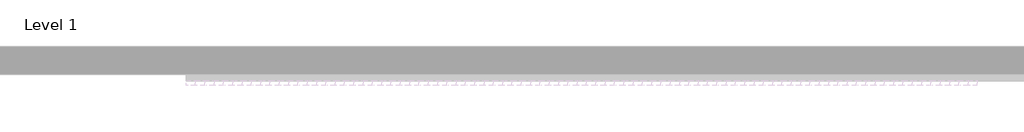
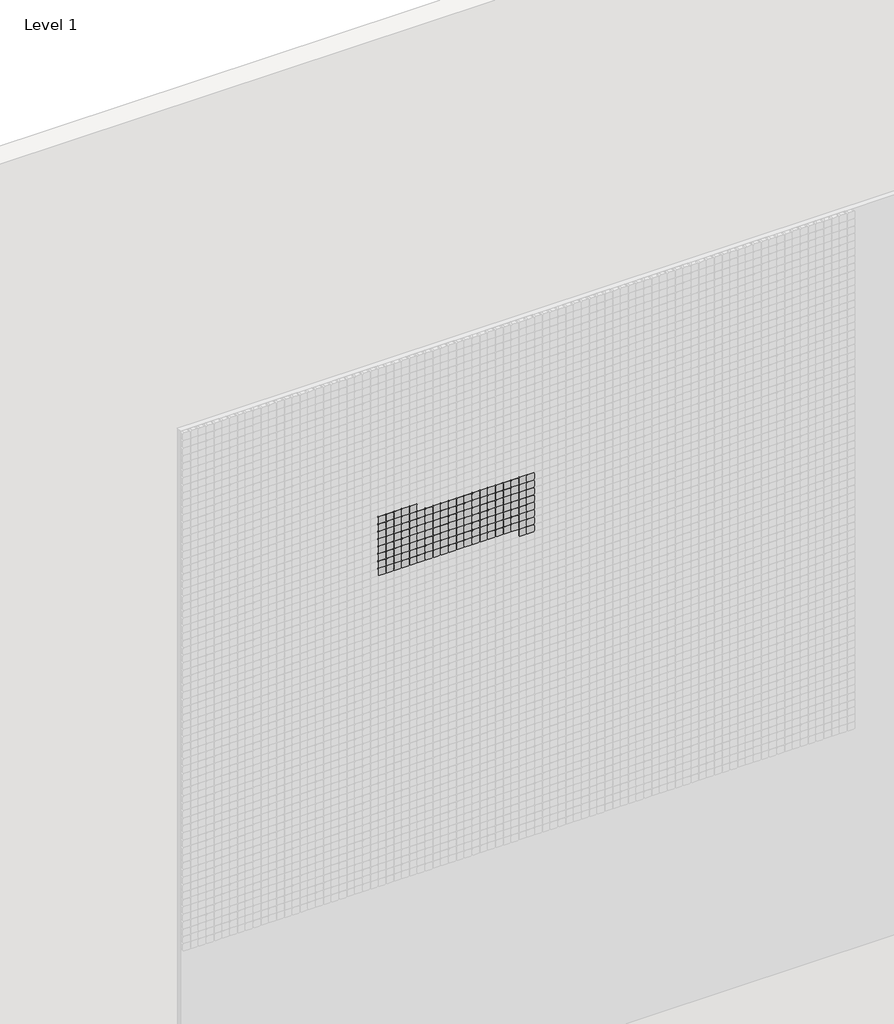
# One storey, part 24 of 71: 147 proxies.
"""IFC4 building model written with IfcOpenShell, lengths in millimetres."""

from ifc_helpers import new_model, si_unit, origin, place, context, project, spatial, transform, mapped, element, save
from components import generic_models_afde289c

model = new_model("IFC4")

# Units and contexts
model_context = context("Model", 3, world=origin())
ifc_project = project(units=[si_unit("LENGTHUNIT", "METRE", prefix="MILLI")], contexts=[model_context])

# Site, building, storey
site = spatial("IfcSite", under=ifc_project)
building = spatial("IfcBuilding", under=site)
storey = spatial("IfcBuildingStorey", under=building, Name="Level 1", Elevation=0.0)

# Proxies
placement = place(None, origin())
generic_models_shape = generic_models_afde289c(model_context)
element("IfcBuildingElementProxy", 1, Name="Pixel_M : Pixel_M", ObjectType="Pixel_M : Pixel_M", at=placement, inside=storey, context=model_context, shape_type="MappedRepresentation", body=[
    mapped(generic_models_shape, transform((6212.4280941, -75.0, 4966.3566215), x_axis=(1.0, 0.0, 0.0), y_axis=(0.0, 0.0, 1.0), z_axis=(0.0, -1.0, 0.0))),
])
element("IfcBuildingElementProxy", 2, Name="Pixel_M : Pixel_M", ObjectType="Pixel_M : Pixel_M", at=placement, inside=storey, context=model_context, shape_type="MappedRepresentation", body=[
    mapped(generic_models_shape, transform((6162.4280941, -75.0, 4966.3566215), x_axis=(1.0, 0.0, 0.0), y_axis=(0.0, 0.0, 1.0), z_axis=(0.0, -1.0, 0.0))),
])
element("IfcBuildingElementProxy", 3, Name="Pixel_M : Pixel_M", ObjectType="Pixel_M : Pixel_M", at=placement, inside=storey, context=model_context, shape_type="MappedRepresentation", body=[
    mapped(generic_models_shape, transform((6112.4280941, -75.0, 4966.3566215), x_axis=(1.0, 0.0, 0.0), y_axis=(0.0, 0.0, 1.0), z_axis=(0.0, -1.0, 0.0))),
])
element("IfcBuildingElementProxy", 4, Name="Pixel_M : Pixel_M", ObjectType="Pixel_M : Pixel_M", at=placement, inside=storey, context=model_context, shape_type="MappedRepresentation", body=[
    mapped(generic_models_shape, transform((6062.4280941, -75.0, 4966.3566215), x_axis=(1.0, 0.0, 0.0), y_axis=(0.0, 0.0, 1.0), z_axis=(0.0, -1.0, 0.0))),
])
element("IfcBuildingElementProxy", 5, Name="Pixel_M : Pixel_M", ObjectType="Pixel_M : Pixel_M", at=placement, inside=storey, context=model_context, shape_type="MappedRepresentation", body=[
    mapped(generic_models_shape, transform((6012.4280941, -75.0, 4966.3566215), x_axis=(1.0, 0.0, 0.0), y_axis=(0.0, 0.0, 1.0), z_axis=(0.0, -1.0, 0.0))),
])
element("IfcBuildingElementProxy", 6, Name="Pixel_M : Pixel_M", ObjectType="Pixel_M : Pixel_M", at=placement, inside=storey, context=model_context, shape_type="MappedRepresentation", body=[
    mapped(generic_models_shape, transform((6962.4280941, -75.0, 4916.3566215), x_axis=(1.0, 0.0, 0.0), y_axis=(0.0, 0.0, 1.0), z_axis=(0.0, -1.0, 0.0))),
])
element("IfcBuildingElementProxy", 7, Name="Pixel_M : Pixel_M", ObjectType="Pixel_M : Pixel_M", at=placement, inside=storey, context=model_context, shape_type="MappedRepresentation", body=[
    mapped(generic_models_shape, transform((6912.4280941, -75.0, 4916.3566215), x_axis=(1.0, 0.0, 0.0), y_axis=(0.0, 0.0, 1.0), z_axis=(0.0, -1.0, 0.0))),
])
element("IfcBuildingElementProxy", 8, Name="Pixel_M : Pixel_M", ObjectType="Pixel_M : Pixel_M", at=placement, inside=storey, context=model_context, shape_type="MappedRepresentation", body=[
    mapped(generic_models_shape, transform((6862.4280941, -75.0, 4916.3566215), x_axis=(1.0, 0.0, 0.0), y_axis=(0.0, 0.0, 1.0), z_axis=(0.0, -1.0, 0.0))),
])
element("IfcBuildingElementProxy", 9, Name="Pixel_M : Pixel_M", ObjectType="Pixel_M : Pixel_M", at=placement, inside=storey, context=model_context, shape_type="MappedRepresentation", body=[
    mapped(generic_models_shape, transform((6812.4280941, -75.0, 4916.3566215), x_axis=(1.0, 0.0, 0.0), y_axis=(0.0, 0.0, 1.0), z_axis=(0.0, -1.0, 0.0))),
])
element("IfcBuildingElementProxy", 10, Name="Pixel_M : Pixel_M", ObjectType="Pixel_M : Pixel_M", at=placement, inside=storey, context=model_context, shape_type="MappedRepresentation", body=[
    mapped(generic_models_shape, transform((6762.4280941, -75.0, 4916.3566215), x_axis=(1.0, 0.0, 0.0), y_axis=(0.0, 0.0, 1.0), z_axis=(0.0, -1.0, 0.0))),
])
element("IfcBuildingElementProxy", 11, Name="Pixel_M : Pixel_M", ObjectType="Pixel_M : Pixel_M", at=placement, inside=storey, context=model_context, shape_type="MappedRepresentation", body=[
    mapped(generic_models_shape, transform((6712.4280941, -75.0, 4916.3566215), x_axis=(1.0, 0.0, 0.0), y_axis=(0.0, 0.0, 1.0), z_axis=(0.0, -1.0, 0.0))),
])
element("IfcBuildingElementProxy", 12, Name="Pixel_M : Pixel_M", ObjectType="Pixel_M : Pixel_M", at=placement, inside=storey, context=model_context, shape_type="MappedRepresentation", body=[
    mapped(generic_models_shape, transform((6662.4280941, -75.0, 4916.3566215), x_axis=(1.0, 0.0, 0.0), y_axis=(0.0, 0.0, 1.0), z_axis=(0.0, -1.0, 0.0))),
])
element("IfcBuildingElementProxy", 13, Name="Pixel_M : Pixel_M", ObjectType="Pixel_M : Pixel_M", at=placement, inside=storey, context=model_context, shape_type="MappedRepresentation", body=[
    mapped(generic_models_shape, transform((6612.4280941, -75.0, 4916.3566215), x_axis=(1.0, 0.0, 0.0), y_axis=(0.0, 0.0, 1.0), z_axis=(0.0, -1.0, 0.0))),
])
element("IfcBuildingElementProxy", 14, Name="Pixel_M : Pixel_M", ObjectType="Pixel_M : Pixel_M", at=placement, inside=storey, context=model_context, shape_type="MappedRepresentation", body=[
    mapped(generic_models_shape, transform((6562.4280941, -75.0, 4916.3566215), x_axis=(1.0, 0.0, 0.0), y_axis=(0.0, 0.0, 1.0), z_axis=(0.0, -1.0, 0.0))),
])
element("IfcBuildingElementProxy", 15, Name="Pixel_M : Pixel_M", ObjectType="Pixel_M : Pixel_M", at=placement, inside=storey, context=model_context, shape_type="MappedRepresentation", body=[
    mapped(generic_models_shape, transform((6512.4280941, -75.0, 4916.3566215), x_axis=(1.0, 0.0, 0.0), y_axis=(0.0, 0.0, 1.0), z_axis=(0.0, -1.0, 0.0))),
])
element("IfcBuildingElementProxy", 16, Name="Pixel_M : Pixel_M", ObjectType="Pixel_M : Pixel_M", at=placement, inside=storey, context=model_context, shape_type="MappedRepresentation", body=[
    mapped(generic_models_shape, transform((6462.4280941, -75.0, 4916.3566215), x_axis=(1.0, 0.0, 0.0), y_axis=(0.0, 0.0, 1.0), z_axis=(0.0, -1.0, 0.0))),
])
element("IfcBuildingElementProxy", 17, Name="Pixel_M : Pixel_M", ObjectType="Pixel_M : Pixel_M", at=placement, inside=storey, context=model_context, shape_type="MappedRepresentation", body=[
    mapped(generic_models_shape, transform((6412.4280941, -75.0, 4916.3566215), x_axis=(1.0, 0.0, 0.0), y_axis=(0.0, 0.0, 1.0), z_axis=(0.0, -1.0, 0.0))),
])
element("IfcBuildingElementProxy", 18, Name="Pixel_M : Pixel_M", ObjectType="Pixel_M : Pixel_M", at=placement, inside=storey, context=model_context, shape_type="MappedRepresentation", body=[
    mapped(generic_models_shape, transform((6362.4280941, -75.0, 4916.3566215), x_axis=(1.0, 0.0, 0.0), y_axis=(0.0, 0.0, 1.0), z_axis=(0.0, -1.0, 0.0))),
])
element("IfcBuildingElementProxy", 19, Name="Pixel_M : Pixel_M", ObjectType="Pixel_M : Pixel_M", at=placement, inside=storey, context=model_context, shape_type="MappedRepresentation", body=[
    mapped(generic_models_shape, transform((6312.4280941, -75.0, 4916.3566215), x_axis=(1.0, 0.0, 0.0), y_axis=(0.0, 0.0, 1.0), z_axis=(0.0, -1.0, 0.0))),
])
element("IfcBuildingElementProxy", 20, Name="Pixel_M : Pixel_M", ObjectType="Pixel_M : Pixel_M", at=placement, inside=storey, context=model_context, shape_type="MappedRepresentation", body=[
    mapped(generic_models_shape, transform((6262.4280941, -75.0, 4916.3566215), x_axis=(1.0, 0.0, 0.0), y_axis=(0.0, 0.0, 1.0), z_axis=(0.0, -1.0, 0.0))),
])
element("IfcBuildingElementProxy", 21, Name="Pixel_M : Pixel_M", ObjectType="Pixel_M : Pixel_M", at=placement, inside=storey, context=model_context, shape_type="MappedRepresentation", body=[
    mapped(generic_models_shape, transform((6212.4280941, -75.0, 4916.3566215), x_axis=(1.0, 0.0, 0.0), y_axis=(0.0, 0.0, 1.0), z_axis=(0.0, -1.0, 0.0))),
])
element("IfcBuildingElementProxy", 22, Name="Pixel_M : Pixel_M", ObjectType="Pixel_M : Pixel_M", at=placement, inside=storey, context=model_context, shape_type="MappedRepresentation", body=[
    mapped(generic_models_shape, transform((6162.4280941, -75.0, 4916.3566215), x_axis=(1.0, 0.0, 0.0), y_axis=(0.0, 0.0, 1.0), z_axis=(0.0, -1.0, 0.0))),
])
element("IfcBuildingElementProxy", 23, Name="Pixel_M : Pixel_M", ObjectType="Pixel_M : Pixel_M", at=placement, inside=storey, context=model_context, shape_type="MappedRepresentation", body=[
    mapped(generic_models_shape, transform((6112.4280941, -75.0, 4916.3566215), x_axis=(1.0, 0.0, 0.0), y_axis=(0.0, 0.0, 1.0), z_axis=(0.0, -1.0, 0.0))),
])
element("IfcBuildingElementProxy", 24, Name="Pixel_M : Pixel_M", ObjectType="Pixel_M : Pixel_M", at=placement, inside=storey, context=model_context, shape_type="MappedRepresentation", body=[
    mapped(generic_models_shape, transform((6062.4280941, -75.0, 4916.3566215), x_axis=(1.0, 0.0, 0.0), y_axis=(0.0, 0.0, 1.0), z_axis=(0.0, -1.0, 0.0))),
])
element("IfcBuildingElementProxy", 25, Name="Pixel_M : Pixel_M", ObjectType="Pixel_M : Pixel_M", at=placement, inside=storey, context=model_context, shape_type="MappedRepresentation", body=[
    mapped(generic_models_shape, transform((6012.4280941, -75.0, 4916.3566215), x_axis=(1.0, 0.0, 0.0), y_axis=(0.0, 0.0, 1.0), z_axis=(0.0, -1.0, 0.0))),
])
element("IfcBuildingElementProxy", 26, Name="Pixel_M : Pixel_M", ObjectType="Pixel_M : Pixel_M", at=placement, inside=storey, context=model_context, shape_type="MappedRepresentation", body=[
    mapped(generic_models_shape, transform((6962.4280941, -75.0, 4866.3566215), x_axis=(1.0, 0.0, 0.0), y_axis=(0.0, 0.0, 1.0), z_axis=(0.0, -1.0, 0.0))),
])
element("IfcBuildingElementProxy", 27, Name="Pixel_M : Pixel_M", ObjectType="Pixel_M : Pixel_M", at=placement, inside=storey, context=model_context, shape_type="MappedRepresentation", body=[
    mapped(generic_models_shape, transform((6912.4280941, -75.0, 4866.3566215), x_axis=(1.0, 0.0, 0.0), y_axis=(0.0, 0.0, 1.0), z_axis=(0.0, -1.0, 0.0))),
])
element("IfcBuildingElementProxy", 28, Name="Pixel_M : Pixel_M", ObjectType="Pixel_M : Pixel_M", at=placement, inside=storey, context=model_context, shape_type="MappedRepresentation", body=[
    mapped(generic_models_shape, transform((6862.4280941, -75.0, 4866.3566215), x_axis=(1.0, 0.0, 0.0), y_axis=(0.0, 0.0, 1.0), z_axis=(0.0, -1.0, 0.0))),
])
element("IfcBuildingElementProxy", 29, Name="Pixel_M : Pixel_M", ObjectType="Pixel_M : Pixel_M", at=placement, inside=storey, context=model_context, shape_type="MappedRepresentation", body=[
    mapped(generic_models_shape, transform((6812.4280941, -75.0, 4866.3566215), x_axis=(1.0, 0.0, 0.0), y_axis=(0.0, 0.0, 1.0), z_axis=(0.0, -1.0, 0.0))),
])
element("IfcBuildingElementProxy", 30, Name="Pixel_M : Pixel_M", ObjectType="Pixel_M : Pixel_M", at=placement, inside=storey, context=model_context, shape_type="MappedRepresentation", body=[
    mapped(generic_models_shape, transform((6762.4280941, -75.0, 4866.3566215), x_axis=(1.0, 0.0, 0.0), y_axis=(0.0, 0.0, 1.0), z_axis=(0.0, -1.0, 0.0))),
])
element("IfcBuildingElementProxy", 31, Name="Pixel_M : Pixel_M", ObjectType="Pixel_M : Pixel_M", at=placement, inside=storey, context=model_context, shape_type="MappedRepresentation", body=[
    mapped(generic_models_shape, transform((6712.4280941, -75.0, 4866.3566215), x_axis=(1.0, 0.0, 0.0), y_axis=(0.0, 0.0, 1.0), z_axis=(0.0, -1.0, 0.0))),
])
element("IfcBuildingElementProxy", 32, Name="Pixel_M : Pixel_M", ObjectType="Pixel_M : Pixel_M", at=placement, inside=storey, context=model_context, shape_type="MappedRepresentation", body=[
    mapped(generic_models_shape, transform((6662.4280941, -75.0, 4866.3566215), x_axis=(1.0, 0.0, 0.0), y_axis=(0.0, 0.0, 1.0), z_axis=(0.0, -1.0, 0.0))),
])
element("IfcBuildingElementProxy", 33, Name="Pixel_M : Pixel_M", ObjectType="Pixel_M : Pixel_M", at=placement, inside=storey, context=model_context, shape_type="MappedRepresentation", body=[
    mapped(generic_models_shape, transform((6612.4280941, -75.0, 4866.3566215), x_axis=(1.0, 0.0, 0.0), y_axis=(0.0, 0.0, 1.0), z_axis=(0.0, -1.0, 0.0))),
])
element("IfcBuildingElementProxy", 34, Name="Pixel_M : Pixel_M", ObjectType="Pixel_M : Pixel_M", at=placement, inside=storey, context=model_context, shape_type="MappedRepresentation", body=[
    mapped(generic_models_shape, transform((6562.4280941, -75.0, 4866.3566215), x_axis=(1.0, 0.0, 0.0), y_axis=(0.0, 0.0, 1.0), z_axis=(0.0, -1.0, 0.0))),
])
element("IfcBuildingElementProxy", 35, Name="Pixel_M : Pixel_M", ObjectType="Pixel_M : Pixel_M", at=placement, inside=storey, context=model_context, shape_type="MappedRepresentation", body=[
    mapped(generic_models_shape, transform((6512.4280941, -75.0, 4866.3566215), x_axis=(1.0, 0.0, 0.0), y_axis=(0.0, 0.0, 1.0), z_axis=(0.0, -1.0, 0.0))),
])
element("IfcBuildingElementProxy", 36, Name="Pixel_M : Pixel_M", ObjectType="Pixel_M : Pixel_M", at=placement, inside=storey, context=model_context, shape_type="MappedRepresentation", body=[
    mapped(generic_models_shape, transform((6462.4280941, -75.0, 4866.3566215), x_axis=(1.0, 0.0, 0.0), y_axis=(0.0, 0.0, 1.0), z_axis=(0.0, -1.0, 0.0))),
])
element("IfcBuildingElementProxy", 37, Name="Pixel_M : Pixel_M", ObjectType="Pixel_M : Pixel_M", at=placement, inside=storey, context=model_context, shape_type="MappedRepresentation", body=[
    mapped(generic_models_shape, transform((6412.4280941, -75.0, 4866.3566215), x_axis=(1.0, 0.0, 0.0), y_axis=(0.0, 0.0, 1.0), z_axis=(0.0, -1.0, 0.0))),
])
element("IfcBuildingElementProxy", 38, Name="Pixel_M : Pixel_M", ObjectType="Pixel_M : Pixel_M", at=placement, inside=storey, context=model_context, shape_type="MappedRepresentation", body=[
    mapped(generic_models_shape, transform((6362.4280941, -75.0, 4866.3566215), x_axis=(1.0, 0.0, 0.0), y_axis=(0.0, 0.0, 1.0), z_axis=(0.0, -1.0, 0.0))),
])
element("IfcBuildingElementProxy", 39, Name="Pixel_M : Pixel_M", ObjectType="Pixel_M : Pixel_M", at=placement, inside=storey, context=model_context, shape_type="MappedRepresentation", body=[
    mapped(generic_models_shape, transform((6312.4280941, -75.0, 4866.3566215), x_axis=(1.0, 0.0, 0.0), y_axis=(0.0, 0.0, 1.0), z_axis=(0.0, -1.0, 0.0))),
])
element("IfcBuildingElementProxy", 40, Name="Pixel_M : Pixel_M", ObjectType="Pixel_M : Pixel_M", at=placement, inside=storey, context=model_context, shape_type="MappedRepresentation", body=[
    mapped(generic_models_shape, transform((6262.4280941, -75.0, 4866.3566215), x_axis=(1.0, 0.0, 0.0), y_axis=(0.0, 0.0, 1.0), z_axis=(0.0, -1.0, 0.0))),
])
element("IfcBuildingElementProxy", 41, Name="Pixel_M : Pixel_M", ObjectType="Pixel_M : Pixel_M", at=placement, inside=storey, context=model_context, shape_type="MappedRepresentation", body=[
    mapped(generic_models_shape, transform((6212.4280941, -75.0, 4866.3566215), x_axis=(1.0, 0.0, 0.0), y_axis=(0.0, 0.0, 1.0), z_axis=(0.0, -1.0, 0.0))),
])
element("IfcBuildingElementProxy", 42, Name="Pixel_M : Pixel_M", ObjectType="Pixel_M : Pixel_M", at=placement, inside=storey, context=model_context, shape_type="MappedRepresentation", body=[
    mapped(generic_models_shape, transform((6162.4280941, -75.0, 4866.3566215), x_axis=(1.0, 0.0, 0.0), y_axis=(0.0, 0.0, 1.0), z_axis=(0.0, -1.0, 0.0))),
])
element("IfcBuildingElementProxy", 43, Name="Pixel_M : Pixel_M", ObjectType="Pixel_M : Pixel_M", at=placement, inside=storey, context=model_context, shape_type="MappedRepresentation", body=[
    mapped(generic_models_shape, transform((6112.4280941, -75.0, 4866.3566215), x_axis=(1.0, 0.0, 0.0), y_axis=(0.0, 0.0, 1.0), z_axis=(0.0, -1.0, 0.0))),
])
element("IfcBuildingElementProxy", 44, Name="Pixel_M : Pixel_M", ObjectType="Pixel_M : Pixel_M", at=placement, inside=storey, context=model_context, shape_type="MappedRepresentation", body=[
    mapped(generic_models_shape, transform((6062.4280941, -75.0, 4866.3566215), x_axis=(1.0, 0.0, 0.0), y_axis=(0.0, 0.0, 1.0), z_axis=(0.0, -1.0, 0.0))),
])
element("IfcBuildingElementProxy", 45, Name="Pixel_M : Pixel_M", ObjectType="Pixel_M : Pixel_M", at=placement, inside=storey, context=model_context, shape_type="MappedRepresentation", body=[
    mapped(generic_models_shape, transform((6012.4280941, -75.0, 4866.3566215), x_axis=(1.0, 0.0, 0.0), y_axis=(0.0, 0.0, 1.0), z_axis=(0.0, -1.0, 0.0))),
])
element("IfcBuildingElementProxy", 46, Name="Pixel_M : Pixel_M", ObjectType="Pixel_M : Pixel_M", at=placement, inside=storey, context=model_context, shape_type="MappedRepresentation", body=[
    mapped(generic_models_shape, transform((6962.4280941, -75.0, 4816.3566215), x_axis=(1.0, 0.0, 0.0), y_axis=(0.0, 0.0, 1.0), z_axis=(0.0, -1.0, 0.0))),
])
element("IfcBuildingElementProxy", 47, Name="Pixel_M : Pixel_M", ObjectType="Pixel_M : Pixel_M", at=placement, inside=storey, context=model_context, shape_type="MappedRepresentation", body=[
    mapped(generic_models_shape, transform((6912.4280941, -75.0, 4816.3566215), x_axis=(1.0, 0.0, 0.0), y_axis=(0.0, 0.0, 1.0), z_axis=(0.0, -1.0, 0.0))),
])
element("IfcBuildingElementProxy", 48, Name="Pixel_M : Pixel_M", ObjectType="Pixel_M : Pixel_M", at=placement, inside=storey, context=model_context, shape_type="MappedRepresentation", body=[
    mapped(generic_models_shape, transform((6862.4280941, -75.0, 4816.3566215), x_axis=(1.0, 0.0, 0.0), y_axis=(0.0, 0.0, 1.0), z_axis=(0.0, -1.0, 0.0))),
])
element("IfcBuildingElementProxy", 49, Name="Pixel_M : Pixel_M", ObjectType="Pixel_M : Pixel_M", at=placement, inside=storey, context=model_context, shape_type="MappedRepresentation", body=[
    mapped(generic_models_shape, transform((6812.4280941, -75.0, 4816.3566215), x_axis=(1.0, 0.0, 0.0), y_axis=(0.0, 0.0, 1.0), z_axis=(0.0, -1.0, 0.0))),
])
element("IfcBuildingElementProxy", 50, Name="Pixel_M : Pixel_M", ObjectType="Pixel_M : Pixel_M", at=placement, inside=storey, context=model_context, shape_type="MappedRepresentation", body=[
    mapped(generic_models_shape, transform((6762.4280941, -75.0, 4816.3566215), x_axis=(1.0, 0.0, 0.0), y_axis=(0.0, 0.0, 1.0), z_axis=(0.0, -1.0, 0.0))),
])
element("IfcBuildingElementProxy", 51, Name="Pixel_M : Pixel_M", ObjectType="Pixel_M : Pixel_M", at=placement, inside=storey, context=model_context, shape_type="MappedRepresentation", body=[
    mapped(generic_models_shape, transform((6712.4280941, -75.0, 4816.3566215), x_axis=(1.0, 0.0, 0.0), y_axis=(0.0, 0.0, 1.0), z_axis=(0.0, -1.0, 0.0))),
])
element("IfcBuildingElementProxy", 52, Name="Pixel_M : Pixel_M", ObjectType="Pixel_M : Pixel_M", at=placement, inside=storey, context=model_context, shape_type="MappedRepresentation", body=[
    mapped(generic_models_shape, transform((6662.4280941, -75.0, 4816.3566215), x_axis=(1.0, 0.0, 0.0), y_axis=(0.0, 0.0, 1.0), z_axis=(0.0, -1.0, 0.0))),
])
element("IfcBuildingElementProxy", 53, Name="Pixel_M : Pixel_M", ObjectType="Pixel_M : Pixel_M", at=placement, inside=storey, context=model_context, shape_type="MappedRepresentation", body=[
    mapped(generic_models_shape, transform((6612.4280941, -75.0, 4816.3566215), x_axis=(1.0, 0.0, 0.0), y_axis=(0.0, 0.0, 1.0), z_axis=(0.0, -1.0, 0.0))),
])
element("IfcBuildingElementProxy", 54, Name="Pixel_M : Pixel_M", ObjectType="Pixel_M : Pixel_M", at=placement, inside=storey, context=model_context, shape_type="MappedRepresentation", body=[
    mapped(generic_models_shape, transform((6562.4280941, -75.0, 4816.3566215), x_axis=(1.0, 0.0, 0.0), y_axis=(0.0, 0.0, 1.0), z_axis=(0.0, -1.0, 0.0))),
])
element("IfcBuildingElementProxy", 55, Name="Pixel_M : Pixel_M", ObjectType="Pixel_M : Pixel_M", at=placement, inside=storey, context=model_context, shape_type="MappedRepresentation", body=[
    mapped(generic_models_shape, transform((6512.4280941, -75.0, 4816.3566215), x_axis=(1.0, 0.0, 0.0), y_axis=(0.0, 0.0, 1.0), z_axis=(0.0, -1.0, 0.0))),
])
element("IfcBuildingElementProxy", 56, Name="Pixel_M : Pixel_M", ObjectType="Pixel_M : Pixel_M", at=placement, inside=storey, context=model_context, shape_type="MappedRepresentation", body=[
    mapped(generic_models_shape, transform((6462.4280941, -75.0, 4816.3566215), x_axis=(1.0, 0.0, 0.0), y_axis=(0.0, 0.0, 1.0), z_axis=(0.0, -1.0, 0.0))),
])
element("IfcBuildingElementProxy", 57, Name="Pixel_M : Pixel_M", ObjectType="Pixel_M : Pixel_M", at=placement, inside=storey, context=model_context, shape_type="MappedRepresentation", body=[
    mapped(generic_models_shape, transform((6412.4280941, -75.0, 4816.3566215), x_axis=(1.0, 0.0, 0.0), y_axis=(0.0, 0.0, 1.0), z_axis=(0.0, -1.0, 0.0))),
])
element("IfcBuildingElementProxy", 58, Name="Pixel_M : Pixel_M", ObjectType="Pixel_M : Pixel_M", at=placement, inside=storey, context=model_context, shape_type="MappedRepresentation", body=[
    mapped(generic_models_shape, transform((6362.4280941, -75.0, 4816.3566215), x_axis=(1.0, 0.0, 0.0), y_axis=(0.0, 0.0, 1.0), z_axis=(0.0, -1.0, 0.0))),
])
element("IfcBuildingElementProxy", 59, Name="Pixel_M : Pixel_M", ObjectType="Pixel_M : Pixel_M", at=placement, inside=storey, context=model_context, shape_type="MappedRepresentation", body=[
    mapped(generic_models_shape, transform((6312.4280941, -75.0, 4816.3566215), x_axis=(1.0, 0.0, 0.0), y_axis=(0.0, 0.0, 1.0), z_axis=(0.0, -1.0, 0.0))),
])
element("IfcBuildingElementProxy", 60, Name="Pixel_M : Pixel_M", ObjectType="Pixel_M : Pixel_M", at=placement, inside=storey, context=model_context, shape_type="MappedRepresentation", body=[
    mapped(generic_models_shape, transform((6262.4280941, -75.0, 4816.3566215), x_axis=(1.0, 0.0, 0.0), y_axis=(0.0, 0.0, 1.0), z_axis=(0.0, -1.0, 0.0))),
])
element("IfcBuildingElementProxy", 61, Name="Pixel_M : Pixel_M", ObjectType="Pixel_M : Pixel_M", at=placement, inside=storey, context=model_context, shape_type="MappedRepresentation", body=[
    mapped(generic_models_shape, transform((6212.4280941, -75.0, 4816.3566215), x_axis=(1.0, 0.0, 0.0), y_axis=(0.0, 0.0, 1.0), z_axis=(0.0, -1.0, 0.0))),
])
element("IfcBuildingElementProxy", 62, Name="Pixel_M : Pixel_M", ObjectType="Pixel_M : Pixel_M", at=placement, inside=storey, context=model_context, shape_type="MappedRepresentation", body=[
    mapped(generic_models_shape, transform((6162.4280941, -75.0, 4816.3566215), x_axis=(1.0, 0.0, 0.0), y_axis=(0.0, 0.0, 1.0), z_axis=(0.0, -1.0, 0.0))),
])
element("IfcBuildingElementProxy", 63, Name="Pixel_M : Pixel_M", ObjectType="Pixel_M : Pixel_M", at=placement, inside=storey, context=model_context, shape_type="MappedRepresentation", body=[
    mapped(generic_models_shape, transform((6112.4280941, -75.0, 4816.3566215), x_axis=(1.0, 0.0, 0.0), y_axis=(0.0, 0.0, 1.0), z_axis=(0.0, -1.0, 0.0))),
])
element("IfcBuildingElementProxy", 64, Name="Pixel_M : Pixel_M", ObjectType="Pixel_M : Pixel_M", at=placement, inside=storey, context=model_context, shape_type="MappedRepresentation", body=[
    mapped(generic_models_shape, transform((6062.4280941, -75.0, 4816.3566215), x_axis=(1.0, 0.0, 0.0), y_axis=(0.0, 0.0, 1.0), z_axis=(0.0, -1.0, 0.0))),
])
element("IfcBuildingElementProxy", 65, Name="Pixel_M : Pixel_M", ObjectType="Pixel_M : Pixel_M", at=placement, inside=storey, context=model_context, shape_type="MappedRepresentation", body=[
    mapped(generic_models_shape, transform((6012.4280941, -75.0, 4816.3566215), x_axis=(1.0, 0.0, 0.0), y_axis=(0.0, 0.0, 1.0), z_axis=(0.0, -1.0, 0.0))),
])
element("IfcBuildingElementProxy", 66, Name="Pixel_M : Pixel_M", ObjectType="Pixel_M : Pixel_M", at=placement, inside=storey, context=model_context, shape_type="MappedRepresentation", body=[
    mapped(generic_models_shape, transform((6962.4280941, -75.0, 4766.3566215), x_axis=(1.0, 0.0, 0.0), y_axis=(0.0, 0.0, 1.0), z_axis=(0.0, -1.0, 0.0))),
])
element("IfcBuildingElementProxy", 67, Name="Pixel_M : Pixel_M", ObjectType="Pixel_M : Pixel_M", at=placement, inside=storey, context=model_context, shape_type="MappedRepresentation", body=[
    mapped(generic_models_shape, transform((6912.4280941, -75.0, 4766.3566215), x_axis=(1.0, 0.0, 0.0), y_axis=(0.0, 0.0, 1.0), z_axis=(0.0, -1.0, 0.0))),
])
element("IfcBuildingElementProxy", 68, Name="Pixel_M : Pixel_M", ObjectType="Pixel_M : Pixel_M", at=placement, inside=storey, context=model_context, shape_type="MappedRepresentation", body=[
    mapped(generic_models_shape, transform((6862.4280941, -75.0, 4766.3566215), x_axis=(1.0, 0.0, 0.0), y_axis=(0.0, 0.0, 1.0), z_axis=(0.0, -1.0, 0.0))),
])
element("IfcBuildingElementProxy", 69, Name="Pixel_M : Pixel_M", ObjectType="Pixel_M : Pixel_M", at=placement, inside=storey, context=model_context, shape_type="MappedRepresentation", body=[
    mapped(generic_models_shape, transform((6812.4280941, -75.0, 4766.3566215), x_axis=(1.0, 0.0, 0.0), y_axis=(0.0, 0.0, 1.0), z_axis=(0.0, -1.0, 0.0))),
])
element("IfcBuildingElementProxy", 70, Name="Pixel_M : Pixel_M", ObjectType="Pixel_M : Pixel_M", at=placement, inside=storey, context=model_context, shape_type="MappedRepresentation", body=[
    mapped(generic_models_shape, transform((6762.4280941, -75.0, 4766.3566215), x_axis=(1.0, 0.0, 0.0), y_axis=(0.0, 0.0, 1.0), z_axis=(0.0, -1.0, 0.0))),
])
element("IfcBuildingElementProxy", 71, Name="Pixel_M : Pixel_M", ObjectType="Pixel_M : Pixel_M", at=placement, inside=storey, context=model_context, shape_type="MappedRepresentation", body=[
    mapped(generic_models_shape, transform((6712.4280941, -75.0, 4766.3566215), x_axis=(1.0, 0.0, 0.0), y_axis=(0.0, 0.0, 1.0), z_axis=(0.0, -1.0, 0.0))),
])
element("IfcBuildingElementProxy", 72, Name="Pixel_M : Pixel_M", ObjectType="Pixel_M : Pixel_M", at=placement, inside=storey, context=model_context, shape_type="MappedRepresentation", body=[
    mapped(generic_models_shape, transform((6662.4280941, -75.0, 4766.3566215), x_axis=(1.0, 0.0, 0.0), y_axis=(0.0, 0.0, 1.0), z_axis=(0.0, -1.0, 0.0))),
])
element("IfcBuildingElementProxy", 73, Name="Pixel_M : Pixel_M", ObjectType="Pixel_M : Pixel_M", at=placement, inside=storey, context=model_context, shape_type="MappedRepresentation", body=[
    mapped(generic_models_shape, transform((6612.4280941, -75.0, 4766.3566215), x_axis=(1.0, 0.0, 0.0), y_axis=(0.0, 0.0, 1.0), z_axis=(0.0, -1.0, 0.0))),
])
element("IfcBuildingElementProxy", 74, Name="Pixel_M : Pixel_M", ObjectType="Pixel_M : Pixel_M", at=placement, inside=storey, context=model_context, shape_type="MappedRepresentation", body=[
    mapped(generic_models_shape, transform((6562.4280941, -75.0, 4766.3566215), x_axis=(1.0, 0.0, 0.0), y_axis=(0.0, 0.0, 1.0), z_axis=(0.0, -1.0, 0.0))),
])
element("IfcBuildingElementProxy", 75, Name="Pixel_M : Pixel_M", ObjectType="Pixel_M : Pixel_M", at=placement, inside=storey, context=model_context, shape_type="MappedRepresentation", body=[
    mapped(generic_models_shape, transform((6512.4280941, -75.0, 4766.3566215), x_axis=(1.0, 0.0, 0.0), y_axis=(0.0, 0.0, 1.0), z_axis=(0.0, -1.0, 0.0))),
])
element("IfcBuildingElementProxy", 76, Name="Pixel_M : Pixel_M", ObjectType="Pixel_M : Pixel_M", at=placement, inside=storey, context=model_context, shape_type="MappedRepresentation", body=[
    mapped(generic_models_shape, transform((6462.4280941, -75.0, 4766.3566215), x_axis=(1.0, 0.0, 0.0), y_axis=(0.0, 0.0, 1.0), z_axis=(0.0, -1.0, 0.0))),
])
element("IfcBuildingElementProxy", 77, Name="Pixel_M : Pixel_M", ObjectType="Pixel_M : Pixel_M", at=placement, inside=storey, context=model_context, shape_type="MappedRepresentation", body=[
    mapped(generic_models_shape, transform((6412.4280941, -75.0, 4766.3566215), x_axis=(1.0, 0.0, 0.0), y_axis=(0.0, 0.0, 1.0), z_axis=(0.0, -1.0, 0.0))),
])
element("IfcBuildingElementProxy", 78, Name="Pixel_M : Pixel_M", ObjectType="Pixel_M : Pixel_M", at=placement, inside=storey, context=model_context, shape_type="MappedRepresentation", body=[
    mapped(generic_models_shape, transform((6362.4280941, -75.0, 4766.3566215), x_axis=(1.0, 0.0, 0.0), y_axis=(0.0, 0.0, 1.0), z_axis=(0.0, -1.0, 0.0))),
])
element("IfcBuildingElementProxy", 79, Name="Pixel_M : Pixel_M", ObjectType="Pixel_M : Pixel_M", at=placement, inside=storey, context=model_context, shape_type="MappedRepresentation", body=[
    mapped(generic_models_shape, transform((6312.4280941, -75.0, 4766.3566215), x_axis=(1.0, 0.0, 0.0), y_axis=(0.0, 0.0, 1.0), z_axis=(0.0, -1.0, 0.0))),
])
element("IfcBuildingElementProxy", 80, Name="Pixel_M : Pixel_M", ObjectType="Pixel_M : Pixel_M", at=placement, inside=storey, context=model_context, shape_type="MappedRepresentation", body=[
    mapped(generic_models_shape, transform((6262.4280941, -75.0, 4766.3566215), x_axis=(1.0, 0.0, 0.0), y_axis=(0.0, 0.0, 1.0), z_axis=(0.0, -1.0, 0.0))),
])
element("IfcBuildingElementProxy", 81, Name="Pixel_M : Pixel_M", ObjectType="Pixel_M : Pixel_M", at=placement, inside=storey, context=model_context, shape_type="MappedRepresentation", body=[
    mapped(generic_models_shape, transform((6212.4280941, -75.0, 4766.3566215), x_axis=(1.0, 0.0, 0.0), y_axis=(0.0, 0.0, 1.0), z_axis=(0.0, -1.0, 0.0))),
])
element("IfcBuildingElementProxy", 82, Name="Pixel_M : Pixel_M", ObjectType="Pixel_M : Pixel_M", at=placement, inside=storey, context=model_context, shape_type="MappedRepresentation", body=[
    mapped(generic_models_shape, transform((6162.4280941, -75.0, 4766.3566215), x_axis=(1.0, 0.0, 0.0), y_axis=(0.0, 0.0, 1.0), z_axis=(0.0, -1.0, 0.0))),
])
element("IfcBuildingElementProxy", 83, Name="Pixel_M : Pixel_M", ObjectType="Pixel_M : Pixel_M", at=placement, inside=storey, context=model_context, shape_type="MappedRepresentation", body=[
    mapped(generic_models_shape, transform((6112.4280941, -75.0, 4766.3566215), x_axis=(1.0, 0.0, 0.0), y_axis=(0.0, 0.0, 1.0), z_axis=(0.0, -1.0, 0.0))),
])
element("IfcBuildingElementProxy", 84, Name="Pixel_M : Pixel_M", ObjectType="Pixel_M : Pixel_M", at=placement, inside=storey, context=model_context, shape_type="MappedRepresentation", body=[
    mapped(generic_models_shape, transform((6062.4280941, -75.0, 4766.3566215), x_axis=(1.0, 0.0, 0.0), y_axis=(0.0, 0.0, 1.0), z_axis=(0.0, -1.0, 0.0))),
])
element("IfcBuildingElementProxy", 85, Name="Pixel_M : Pixel_M", ObjectType="Pixel_M : Pixel_M", at=placement, inside=storey, context=model_context, shape_type="MappedRepresentation", body=[
    mapped(generic_models_shape, transform((6012.4280941, -75.0, 4766.3566215), x_axis=(1.0, 0.0, 0.0), y_axis=(0.0, 0.0, 1.0), z_axis=(0.0, -1.0, 0.0))),
])
element("IfcBuildingElementProxy", 86, Name="Pixel_M : Pixel_M", ObjectType="Pixel_M : Pixel_M", at=placement, inside=storey, context=model_context, shape_type="MappedRepresentation", body=[
    mapped(generic_models_shape, transform((6962.4280941, -75.0, 4716.3566215), x_axis=(1.0, 0.0, 0.0), y_axis=(0.0, 0.0, 1.0), z_axis=(0.0, -1.0, 0.0))),
])
element("IfcBuildingElementProxy", 87, Name="Pixel_M : Pixel_M", ObjectType="Pixel_M : Pixel_M", at=placement, inside=storey, context=model_context, shape_type="MappedRepresentation", body=[
    mapped(generic_models_shape, transform((6912.4280941, -75.0, 4716.3566215), x_axis=(1.0, 0.0, 0.0), y_axis=(0.0, 0.0, 1.0), z_axis=(0.0, -1.0, 0.0))),
])
element("IfcBuildingElementProxy", 88, Name="Pixel_M : Pixel_M", ObjectType="Pixel_M : Pixel_M", at=placement, inside=storey, context=model_context, shape_type="MappedRepresentation", body=[
    mapped(generic_models_shape, transform((6862.4280941, -75.0, 4716.3566215), x_axis=(1.0, 0.0, 0.0), y_axis=(0.0, 0.0, 1.0), z_axis=(0.0, -1.0, 0.0))),
])
element("IfcBuildingElementProxy", 89, Name="Pixel_M : Pixel_M", ObjectType="Pixel_M : Pixel_M", at=placement, inside=storey, context=model_context, shape_type="MappedRepresentation", body=[
    mapped(generic_models_shape, transform((6812.4280941, -75.0, 4716.3566215), x_axis=(1.0, 0.0, 0.0), y_axis=(0.0, 0.0, 1.0), z_axis=(0.0, -1.0, 0.0))),
])
element("IfcBuildingElementProxy", 90, Name="Pixel_M : Pixel_M", ObjectType="Pixel_M : Pixel_M", at=placement, inside=storey, context=model_context, shape_type="MappedRepresentation", body=[
    mapped(generic_models_shape, transform((6762.4280941, -75.0, 4716.3566215), x_axis=(1.0, 0.0, 0.0), y_axis=(0.0, 0.0, 1.0), z_axis=(0.0, -1.0, 0.0))),
])
element("IfcBuildingElementProxy", 91, Name="Pixel_M : Pixel_M", ObjectType="Pixel_M : Pixel_M", at=placement, inside=storey, context=model_context, shape_type="MappedRepresentation", body=[
    mapped(generic_models_shape, transform((6712.4280941, -75.0, 4716.3566215), x_axis=(1.0, 0.0, 0.0), y_axis=(0.0, 0.0, 1.0), z_axis=(0.0, -1.0, 0.0))),
])
element("IfcBuildingElementProxy", 92, Name="Pixel_M : Pixel_M", ObjectType="Pixel_M : Pixel_M", at=placement, inside=storey, context=model_context, shape_type="MappedRepresentation", body=[
    mapped(generic_models_shape, transform((6662.4280941, -75.0, 4716.3566215), x_axis=(1.0, 0.0, 0.0), y_axis=(0.0, 0.0, 1.0), z_axis=(0.0, -1.0, 0.0))),
])
element("IfcBuildingElementProxy", 93, Name="Pixel_M : Pixel_M", ObjectType="Pixel_M : Pixel_M", at=placement, inside=storey, context=model_context, shape_type="MappedRepresentation", body=[
    mapped(generic_models_shape, transform((6612.4280941, -75.0, 4716.3566215), x_axis=(1.0, 0.0, 0.0), y_axis=(0.0, 0.0, 1.0), z_axis=(0.0, -1.0, 0.0))),
])
element("IfcBuildingElementProxy", 94, Name="Pixel_M : Pixel_M", ObjectType="Pixel_M : Pixel_M", at=placement, inside=storey, context=model_context, shape_type="MappedRepresentation", body=[
    mapped(generic_models_shape, transform((6562.4280941, -75.0, 4716.3566215), x_axis=(1.0, 0.0, 0.0), y_axis=(0.0, 0.0, 1.0), z_axis=(0.0, -1.0, 0.0))),
])
element("IfcBuildingElementProxy", 95, Name="Pixel_M : Pixel_M", ObjectType="Pixel_M : Pixel_M", at=placement, inside=storey, context=model_context, shape_type="MappedRepresentation", body=[
    mapped(generic_models_shape, transform((6512.4280941, -75.0, 4716.3566215), x_axis=(1.0, 0.0, 0.0), y_axis=(0.0, 0.0, 1.0), z_axis=(0.0, -1.0, 0.0))),
])
element("IfcBuildingElementProxy", 96, Name="Pixel_M : Pixel_M", ObjectType="Pixel_M : Pixel_M", at=placement, inside=storey, context=model_context, shape_type="MappedRepresentation", body=[
    mapped(generic_models_shape, transform((6462.4280941, -75.0, 4716.3566215), x_axis=(1.0, 0.0, 0.0), y_axis=(0.0, 0.0, 1.0), z_axis=(0.0, -1.0, 0.0))),
])
element("IfcBuildingElementProxy", 97, Name="Pixel_M : Pixel_M", ObjectType="Pixel_M : Pixel_M", at=placement, inside=storey, context=model_context, shape_type="MappedRepresentation", body=[
    mapped(generic_models_shape, transform((6412.4280941, -75.0, 4716.3566215), x_axis=(1.0, 0.0, 0.0), y_axis=(0.0, 0.0, 1.0), z_axis=(0.0, -1.0, 0.0))),
])
element("IfcBuildingElementProxy", 98, Name="Pixel_M : Pixel_M", ObjectType="Pixel_M : Pixel_M", at=placement, inside=storey, context=model_context, shape_type="MappedRepresentation", body=[
    mapped(generic_models_shape, transform((6362.4280941, -75.0, 4716.3566215), x_axis=(1.0, 0.0, 0.0), y_axis=(0.0, 0.0, 1.0), z_axis=(0.0, -1.0, 0.0))),
])
element("IfcBuildingElementProxy", 99, Name="Pixel_M : Pixel_M", ObjectType="Pixel_M : Pixel_M", at=placement, inside=storey, context=model_context, shape_type="MappedRepresentation", body=[
    mapped(generic_models_shape, transform((6312.4280941, -75.0, 4716.3566215), x_axis=(1.0, 0.0, 0.0), y_axis=(0.0, 0.0, 1.0), z_axis=(0.0, -1.0, 0.0))),
])
element("IfcBuildingElementProxy", 100, Name="Pixel_M : Pixel_M", ObjectType="Pixel_M : Pixel_M", at=placement, inside=storey, context=model_context, shape_type="MappedRepresentation", body=[
    mapped(generic_models_shape, transform((6262.4280941, -75.0, 4716.3566215), x_axis=(1.0, 0.0, 0.0), y_axis=(0.0, 0.0, 1.0), z_axis=(0.0, -1.0, 0.0))),
])
element("IfcBuildingElementProxy", 101, Name="Pixel_M : Pixel_M", ObjectType="Pixel_M : Pixel_M", at=placement, inside=storey, context=model_context, shape_type="MappedRepresentation", body=[
    mapped(generic_models_shape, transform((6212.4280941, -75.0, 4716.3566215), x_axis=(1.0, 0.0, 0.0), y_axis=(0.0, 0.0, 1.0), z_axis=(0.0, -1.0, 0.0))),
])
element("IfcBuildingElementProxy", 102, Name="Pixel_M : Pixel_M", ObjectType="Pixel_M : Pixel_M", at=placement, inside=storey, context=model_context, shape_type="MappedRepresentation", body=[
    mapped(generic_models_shape, transform((6162.4280941, -75.0, 4716.3566215), x_axis=(1.0, 0.0, 0.0), y_axis=(0.0, 0.0, 1.0), z_axis=(0.0, -1.0, 0.0))),
])
element("IfcBuildingElementProxy", 103, Name="Pixel_M : Pixel_M", ObjectType="Pixel_M : Pixel_M", at=placement, inside=storey, context=model_context, shape_type="MappedRepresentation", body=[
    mapped(generic_models_shape, transform((6112.4280941, -75.0, 4716.3566215), x_axis=(1.0, 0.0, 0.0), y_axis=(0.0, 0.0, 1.0), z_axis=(0.0, -1.0, 0.0))),
])
element("IfcBuildingElementProxy", 104, Name="Pixel_M : Pixel_M", ObjectType="Pixel_M : Pixel_M", at=placement, inside=storey, context=model_context, shape_type="MappedRepresentation", body=[
    mapped(generic_models_shape, transform((6062.4280941, -75.0, 4716.3566215), x_axis=(1.0, 0.0, 0.0), y_axis=(0.0, 0.0, 1.0), z_axis=(0.0, -1.0, 0.0))),
])
element("IfcBuildingElementProxy", 105, Name="Pixel_M : Pixel_M", ObjectType="Pixel_M : Pixel_M", at=placement, inside=storey, context=model_context, shape_type="MappedRepresentation", body=[
    mapped(generic_models_shape, transform((6012.4280941, -75.0, 4716.3566215), x_axis=(1.0, 0.0, 0.0), y_axis=(0.0, 0.0, 1.0), z_axis=(0.0, -1.0, 0.0))),
])
element("IfcBuildingElementProxy", 106, Name="Pixel_M : Pixel_M", ObjectType="Pixel_M : Pixel_M", at=placement, inside=storey, context=model_context, shape_type="MappedRepresentation", body=[
    mapped(generic_models_shape, transform((6962.4280941, -75.0, 4666.3566215), x_axis=(1.0, 0.0, 0.0), y_axis=(0.0, 0.0, 1.0), z_axis=(0.0, -1.0, 0.0))),
])
element("IfcBuildingElementProxy", 107, Name="Pixel_M : Pixel_M", ObjectType="Pixel_M : Pixel_M", at=placement, inside=storey, context=model_context, shape_type="MappedRepresentation", body=[
    mapped(generic_models_shape, transform((6912.4280941, -75.0, 4666.3566215), x_axis=(1.0, 0.0, 0.0), y_axis=(0.0, 0.0, 1.0), z_axis=(0.0, -1.0, 0.0))),
])
element("IfcBuildingElementProxy", 108, Name="Pixel_M : Pixel_M", ObjectType="Pixel_M : Pixel_M", at=placement, inside=storey, context=model_context, shape_type="MappedRepresentation", body=[
    mapped(generic_models_shape, transform((6862.4280941, -75.0, 4666.3566215), x_axis=(1.0, 0.0, 0.0), y_axis=(0.0, 0.0, 1.0), z_axis=(0.0, -1.0, 0.0))),
])
element("IfcBuildingElementProxy", 109, Name="Pixel_M : Pixel_M", ObjectType="Pixel_M : Pixel_M", at=placement, inside=storey, context=model_context, shape_type="MappedRepresentation", body=[
    mapped(generic_models_shape, transform((6812.4280941, -75.0, 4666.3566215), x_axis=(1.0, 0.0, 0.0), y_axis=(0.0, 0.0, 1.0), z_axis=(0.0, -1.0, 0.0))),
])
element("IfcBuildingElementProxy", 110, Name="Pixel_M : Pixel_M", ObjectType="Pixel_M : Pixel_M", at=placement, inside=storey, context=model_context, shape_type="MappedRepresentation", body=[
    mapped(generic_models_shape, transform((6762.4280941, -75.0, 4666.3566215), x_axis=(1.0, 0.0, 0.0), y_axis=(0.0, 0.0, 1.0), z_axis=(0.0, -1.0, 0.0))),
])
element("IfcBuildingElementProxy", 111, Name="Pixel_M : Pixel_M", ObjectType="Pixel_M : Pixel_M", at=placement, inside=storey, context=model_context, shape_type="MappedRepresentation", body=[
    mapped(generic_models_shape, transform((6712.4280941, -75.0, 4666.3566215), x_axis=(1.0, 0.0, 0.0), y_axis=(0.0, 0.0, 1.0), z_axis=(0.0, -1.0, 0.0))),
])
element("IfcBuildingElementProxy", 112, Name="Pixel_M : Pixel_M", ObjectType="Pixel_M : Pixel_M", at=placement, inside=storey, context=model_context, shape_type="MappedRepresentation", body=[
    mapped(generic_models_shape, transform((6662.4280941, -75.0, 4666.3566215), x_axis=(1.0, 0.0, 0.0), y_axis=(0.0, 0.0, 1.0), z_axis=(0.0, -1.0, 0.0))),
])
element("IfcBuildingElementProxy", 113, Name="Pixel_M : Pixel_M", ObjectType="Pixel_M : Pixel_M", at=placement, inside=storey, context=model_context, shape_type="MappedRepresentation", body=[
    mapped(generic_models_shape, transform((6612.4280941, -75.0, 4666.3566215), x_axis=(1.0, 0.0, 0.0), y_axis=(0.0, 0.0, 1.0), z_axis=(0.0, -1.0, 0.0))),
])
element("IfcBuildingElementProxy", 114, Name="Pixel_M : Pixel_M", ObjectType="Pixel_M : Pixel_M", at=placement, inside=storey, context=model_context, shape_type="MappedRepresentation", body=[
    mapped(generic_models_shape, transform((6562.4280941, -75.0, 4666.3566215), x_axis=(1.0, 0.0, 0.0), y_axis=(0.0, 0.0, 1.0), z_axis=(0.0, -1.0, 0.0))),
])
element("IfcBuildingElementProxy", 115, Name="Pixel_M : Pixel_M", ObjectType="Pixel_M : Pixel_M", at=placement, inside=storey, context=model_context, shape_type="MappedRepresentation", body=[
    mapped(generic_models_shape, transform((6512.4280941, -75.0, 4666.3566215), x_axis=(1.0, 0.0, 0.0), y_axis=(0.0, 0.0, 1.0), z_axis=(0.0, -1.0, 0.0))),
])
element("IfcBuildingElementProxy", 116, Name="Pixel_M : Pixel_M", ObjectType="Pixel_M : Pixel_M", at=placement, inside=storey, context=model_context, shape_type="MappedRepresentation", body=[
    mapped(generic_models_shape, transform((6462.4280941, -75.0, 4666.3566215), x_axis=(1.0, 0.0, 0.0), y_axis=(0.0, 0.0, 1.0), z_axis=(0.0, -1.0, 0.0))),
])
element("IfcBuildingElementProxy", 117, Name="Pixel_M : Pixel_M", ObjectType="Pixel_M : Pixel_M", at=placement, inside=storey, context=model_context, shape_type="MappedRepresentation", body=[
    mapped(generic_models_shape, transform((6412.4280941, -75.0, 4666.3566215), x_axis=(1.0, 0.0, 0.0), y_axis=(0.0, 0.0, 1.0), z_axis=(0.0, -1.0, 0.0))),
])
element("IfcBuildingElementProxy", 118, Name="Pixel_M : Pixel_M", ObjectType="Pixel_M : Pixel_M", at=placement, inside=storey, context=model_context, shape_type="MappedRepresentation", body=[
    mapped(generic_models_shape, transform((6362.4280941, -75.0, 4666.3566215), x_axis=(1.0, 0.0, 0.0), y_axis=(0.0, 0.0, 1.0), z_axis=(0.0, -1.0, 0.0))),
])
element("IfcBuildingElementProxy", 119, Name="Pixel_M : Pixel_M", ObjectType="Pixel_M : Pixel_M", at=placement, inside=storey, context=model_context, shape_type="MappedRepresentation", body=[
    mapped(generic_models_shape, transform((6312.4280941, -75.0, 4666.3566215), x_axis=(1.0, 0.0, 0.0), y_axis=(0.0, 0.0, 1.0), z_axis=(0.0, -1.0, 0.0))),
])
element("IfcBuildingElementProxy", 120, Name="Pixel_M : Pixel_M", ObjectType="Pixel_M : Pixel_M", at=placement, inside=storey, context=model_context, shape_type="MappedRepresentation", body=[
    mapped(generic_models_shape, transform((6262.4280941, -75.0, 4666.3566215), x_axis=(1.0, 0.0, 0.0), y_axis=(0.0, 0.0, 1.0), z_axis=(0.0, -1.0, 0.0))),
])
element("IfcBuildingElementProxy", 121, Name="Pixel_M : Pixel_M", ObjectType="Pixel_M : Pixel_M", at=placement, inside=storey, context=model_context, shape_type="MappedRepresentation", body=[
    mapped(generic_models_shape, transform((6212.4280941, -75.0, 4666.3566215), x_axis=(1.0, 0.0, 0.0), y_axis=(0.0, 0.0, 1.0), z_axis=(0.0, -1.0, 0.0))),
])
element("IfcBuildingElementProxy", 122, Name="Pixel_M : Pixel_M", ObjectType="Pixel_M : Pixel_M", at=placement, inside=storey, context=model_context, shape_type="MappedRepresentation", body=[
    mapped(generic_models_shape, transform((6162.4280941, -75.0, 4666.3566215), x_axis=(1.0, 0.0, 0.0), y_axis=(0.0, 0.0, 1.0), z_axis=(0.0, -1.0, 0.0))),
])
element("IfcBuildingElementProxy", 123, Name="Pixel_M : Pixel_M", ObjectType="Pixel_M : Pixel_M", at=placement, inside=storey, context=model_context, shape_type="MappedRepresentation", body=[
    mapped(generic_models_shape, transform((6112.4280941, -75.0, 4666.3566215), x_axis=(1.0, 0.0, 0.0), y_axis=(0.0, 0.0, 1.0), z_axis=(0.0, -1.0, 0.0))),
])
element("IfcBuildingElementProxy", 124, Name="Pixel_M : Pixel_M", ObjectType="Pixel_M : Pixel_M", at=placement, inside=storey, context=model_context, shape_type="MappedRepresentation", body=[
    mapped(generic_models_shape, transform((6062.4280941, -75.0, 4666.3566215), x_axis=(1.0, 0.0, 0.0), y_axis=(0.0, 0.0, 1.0), z_axis=(0.0, -1.0, 0.0))),
])
element("IfcBuildingElementProxy", 125, Name="Pixel_M : Pixel_M", ObjectType="Pixel_M : Pixel_M", at=placement, inside=storey, context=model_context, shape_type="MappedRepresentation", body=[
    mapped(generic_models_shape, transform((6012.4280941, -75.0, 4666.3566215), x_axis=(1.0, 0.0, 0.0), y_axis=(0.0, 0.0, 1.0), z_axis=(0.0, -1.0, 0.0))),
])
element("IfcBuildingElementProxy", 126, Name="Pixel_M : Pixel_M", ObjectType="Pixel_M : Pixel_M", at=placement, inside=storey, context=model_context, shape_type="MappedRepresentation", body=[
    mapped(generic_models_shape, transform((6962.4280941, -75.0, 4616.3566215), x_axis=(1.0, 0.0, 0.0), y_axis=(0.0, 0.0, 1.0), z_axis=(0.0, -1.0, 0.0))),
])
element("IfcBuildingElementProxy", 127, Name="Pixel_M : Pixel_M", ObjectType="Pixel_M : Pixel_M", at=placement, inside=storey, context=model_context, shape_type="MappedRepresentation", body=[
    mapped(generic_models_shape, transform((6912.4280941, -75.0, 4616.3566215), x_axis=(1.0, 0.0, 0.0), y_axis=(0.0, 0.0, 1.0), z_axis=(0.0, -1.0, 0.0))),
])
element("IfcBuildingElementProxy", 128, Name="Pixel_M : Pixel_M", ObjectType="Pixel_M : Pixel_M", at=placement, inside=storey, context=model_context, shape_type="MappedRepresentation", body=[
    mapped(generic_models_shape, transform((6862.4280941, -75.0, 4616.3566215), x_axis=(1.0, 0.0, 0.0), y_axis=(0.0, 0.0, 1.0), z_axis=(0.0, -1.0, 0.0))),
])
element("IfcBuildingElementProxy", 129, Name="Pixel_M : Pixel_M", ObjectType="Pixel_M : Pixel_M", at=placement, inside=storey, context=model_context, shape_type="MappedRepresentation", body=[
    mapped(generic_models_shape, transform((6812.4280941, -75.0, 4616.3566215), x_axis=(1.0, 0.0, 0.0), y_axis=(0.0, 0.0, 1.0), z_axis=(0.0, -1.0, 0.0))),
])
element("IfcBuildingElementProxy", 130, Name="Pixel_M : Pixel_M", ObjectType="Pixel_M : Pixel_M", at=placement, inside=storey, context=model_context, shape_type="MappedRepresentation", body=[
    mapped(generic_models_shape, transform((6762.4280941, -75.0, 4616.3566215), x_axis=(1.0, 0.0, 0.0), y_axis=(0.0, 0.0, 1.0), z_axis=(0.0, -1.0, 0.0))),
])
element("IfcBuildingElementProxy", 131, Name="Pixel_M : Pixel_M", ObjectType="Pixel_M : Pixel_M", at=placement, inside=storey, context=model_context, shape_type="MappedRepresentation", body=[
    mapped(generic_models_shape, transform((6712.4280941, -75.0, 4616.3566215), x_axis=(1.0, 0.0, 0.0), y_axis=(0.0, 0.0, 1.0), z_axis=(0.0, -1.0, 0.0))),
])
element("IfcBuildingElementProxy", 132, Name="Pixel_M : Pixel_M", ObjectType="Pixel_M : Pixel_M", at=placement, inside=storey, context=model_context, shape_type="MappedRepresentation", body=[
    mapped(generic_models_shape, transform((6662.4280941, -75.0, 4616.3566215), x_axis=(1.0, 0.0, 0.0), y_axis=(0.0, 0.0, 1.0), z_axis=(0.0, -1.0, 0.0))),
])
element("IfcBuildingElementProxy", 133, Name="Pixel_M : Pixel_M", ObjectType="Pixel_M : Pixel_M", at=placement, inside=storey, context=model_context, shape_type="MappedRepresentation", body=[
    mapped(generic_models_shape, transform((6612.4280941, -75.0, 4616.3566215), x_axis=(1.0, 0.0, 0.0), y_axis=(0.0, 0.0, 1.0), z_axis=(0.0, -1.0, 0.0))),
])
element("IfcBuildingElementProxy", 134, Name="Pixel_M : Pixel_M", ObjectType="Pixel_M : Pixel_M", at=placement, inside=storey, context=model_context, shape_type="MappedRepresentation", body=[
    mapped(generic_models_shape, transform((6562.4280941, -75.0, 4616.3566215), x_axis=(1.0, 0.0, 0.0), y_axis=(0.0, 0.0, 1.0), z_axis=(0.0, -1.0, 0.0))),
])
element("IfcBuildingElementProxy", 135, Name="Pixel_M : Pixel_M", ObjectType="Pixel_M : Pixel_M", at=placement, inside=storey, context=model_context, shape_type="MappedRepresentation", body=[
    mapped(generic_models_shape, transform((6512.4280941, -75.0, 4616.3566215), x_axis=(1.0, 0.0, 0.0), y_axis=(0.0, 0.0, 1.0), z_axis=(0.0, -1.0, 0.0))),
])
element("IfcBuildingElementProxy", 136, Name="Pixel_M : Pixel_M", ObjectType="Pixel_M : Pixel_M", at=placement, inside=storey, context=model_context, shape_type="MappedRepresentation", body=[
    mapped(generic_models_shape, transform((6462.4280941, -75.0, 4616.3566215), x_axis=(1.0, 0.0, 0.0), y_axis=(0.0, 0.0, 1.0), z_axis=(0.0, -1.0, 0.0))),
])
element("IfcBuildingElementProxy", 137, Name="Pixel_M : Pixel_M", ObjectType="Pixel_M : Pixel_M", at=placement, inside=storey, context=model_context, shape_type="MappedRepresentation", body=[
    mapped(generic_models_shape, transform((6412.4280941, -75.0, 4616.3566215), x_axis=(1.0, 0.0, 0.0), y_axis=(0.0, 0.0, 1.0), z_axis=(0.0, -1.0, 0.0))),
])
element("IfcBuildingElementProxy", 138, Name="Pixel_M : Pixel_M", ObjectType="Pixel_M : Pixel_M", at=placement, inside=storey, context=model_context, shape_type="MappedRepresentation", body=[
    mapped(generic_models_shape, transform((6362.4280941, -75.0, 4616.3566215), x_axis=(1.0, 0.0, 0.0), y_axis=(0.0, 0.0, 1.0), z_axis=(0.0, -1.0, 0.0))),
])
element("IfcBuildingElementProxy", 139, Name="Pixel_M : Pixel_M", ObjectType="Pixel_M : Pixel_M", at=placement, inside=storey, context=model_context, shape_type="MappedRepresentation", body=[
    mapped(generic_models_shape, transform((6312.4280941, -75.0, 4616.3566215), x_axis=(1.0, 0.0, 0.0), y_axis=(0.0, 0.0, 1.0), z_axis=(0.0, -1.0, 0.0))),
])
element("IfcBuildingElementProxy", 140, Name="Pixel_M : Pixel_M", ObjectType="Pixel_M : Pixel_M", at=placement, inside=storey, context=model_context, shape_type="MappedRepresentation", body=[
    mapped(generic_models_shape, transform((6262.4280941, -75.0, 4616.3566215), x_axis=(1.0, 0.0, 0.0), y_axis=(0.0, 0.0, 1.0), z_axis=(0.0, -1.0, 0.0))),
])
element("IfcBuildingElementProxy", 141, Name="Pixel_M : Pixel_M", ObjectType="Pixel_M : Pixel_M", at=placement, inside=storey, context=model_context, shape_type="MappedRepresentation", body=[
    mapped(generic_models_shape, transform((6212.4280941, -75.0, 4616.3566215), x_axis=(1.0, 0.0, 0.0), y_axis=(0.0, 0.0, 1.0), z_axis=(0.0, -1.0, 0.0))),
])
element("IfcBuildingElementProxy", 142, Name="Pixel_M : Pixel_M", ObjectType="Pixel_M : Pixel_M", at=placement, inside=storey, context=model_context, shape_type="MappedRepresentation", body=[
    mapped(generic_models_shape, transform((6162.4280941, -75.0, 4616.3566215), x_axis=(1.0, 0.0, 0.0), y_axis=(0.0, 0.0, 1.0), z_axis=(0.0, -1.0, 0.0))),
])
element("IfcBuildingElementProxy", 143, Name="Pixel_M : Pixel_M", ObjectType="Pixel_M : Pixel_M", at=placement, inside=storey, context=model_context, shape_type="MappedRepresentation", body=[
    mapped(generic_models_shape, transform((6112.4280941, -75.0, 4616.3566215), x_axis=(1.0, 0.0, 0.0), y_axis=(0.0, 0.0, 1.0), z_axis=(0.0, -1.0, 0.0))),
])
element("IfcBuildingElementProxy", 144, Name="Pixel_M : Pixel_M", ObjectType="Pixel_M : Pixel_M", at=placement, inside=storey, context=model_context, shape_type="MappedRepresentation", body=[
    mapped(generic_models_shape, transform((6062.4280941, -75.0, 4616.3566215), x_axis=(1.0, 0.0, 0.0), y_axis=(0.0, 0.0, 1.0), z_axis=(0.0, -1.0, 0.0))),
])
element("IfcBuildingElementProxy", 145, Name="Pixel_M : Pixel_M", ObjectType="Pixel_M : Pixel_M", at=placement, inside=storey, context=model_context, shape_type="MappedRepresentation", body=[
    mapped(generic_models_shape, transform((6012.4280941, -75.0, 4616.3566215), x_axis=(1.0, 0.0, 0.0), y_axis=(0.0, 0.0, 1.0), z_axis=(0.0, -1.0, 0.0))),
])
element("IfcBuildingElementProxy", 146, Name="Pixel_M : Pixel_M", ObjectType="Pixel_M : Pixel_M", at=placement, inside=storey, context=model_context, shape_type="MappedRepresentation", body=[
    mapped(generic_models_shape, transform((6962.4280941, -75.0, 4566.3566215), x_axis=(1.0, 0.0, 0.0), y_axis=(0.0, 0.0, 1.0), z_axis=(0.0, -1.0, 0.0))),
])
element("IfcBuildingElementProxy", 147, Name="Pixel_M : Pixel_M", ObjectType="Pixel_M : Pixel_M", at=placement, inside=storey, context=model_context, shape_type="MappedRepresentation", body=[
    mapped(generic_models_shape, transform((6912.4280941, -75.0, 4566.3566215), x_axis=(1.0, 0.0, 0.0), y_axis=(0.0, 0.0, 1.0), z_axis=(0.0, -1.0, 0.0))),
])

save(model, "model.ifc")
